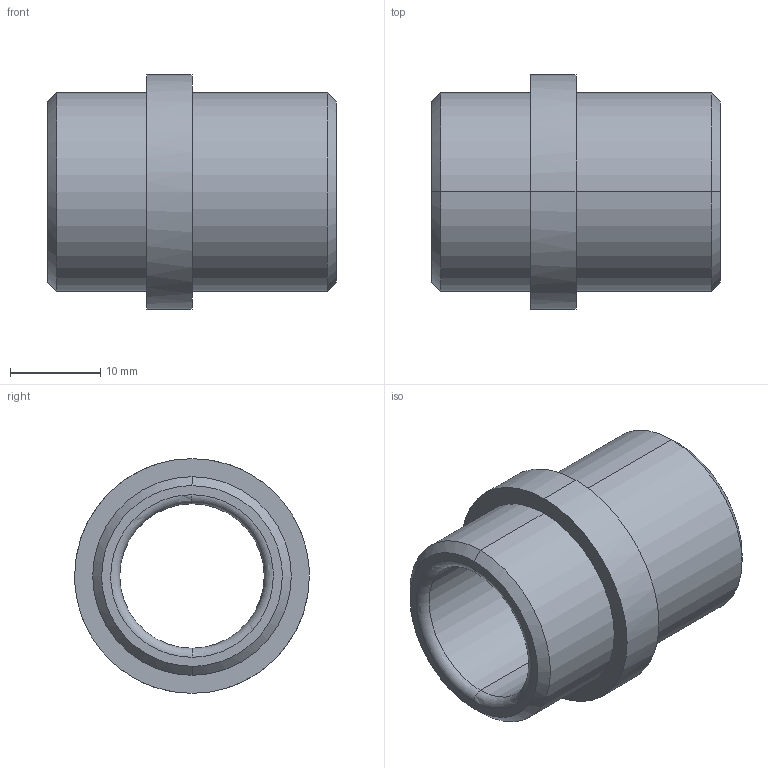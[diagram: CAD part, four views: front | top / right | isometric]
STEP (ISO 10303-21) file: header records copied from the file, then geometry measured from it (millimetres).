
FILE_DESCRIPTION(('CATIA V5 STEP Exchange'),'2;1');
FILE_NAME('C:\Users\Utente\Desktop\IO LAVORO\3D X SITO CF\X SITO\PLASTICA\G403\G403-16X32.stp','2021-04-21T11:34:04+00:00',('none'),('none'),'CATIA Version 5 Release 20 GA (IN-10)','CATIA V5 STEP AP203','none');
FILE_SCHEMA(('CONFIG_CONTROL_DESIGN'));
Length unit declared in the file: millimetre
Products named in the file (1): G403-16X32
Bounding box: 32 x 26 x 26 mm (x, y, z)
Volume: 6395 mm3; surface area: 4416.9 mm2
Topology: 1 solids, 1 shells, 20 faces, 64 edges, 48 vertices
Faces by surface type: cylinder 8, plane 4, cone 4, torus 4
Entity records: 906 total; most frequent: CARTESIAN_POINT 301, ORIENTED_EDGE 128, DIRECTION 92, EDGE_CURVE 64, AXIS2_PLACEMENT_3D 61, VERTEX_POINT 48, CIRCLE 40, EDGE_LOOP 24
